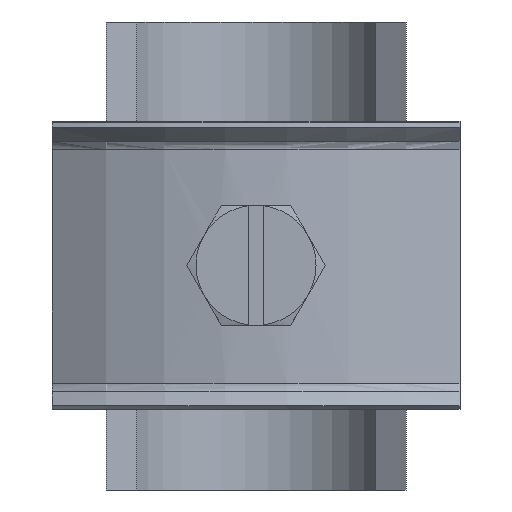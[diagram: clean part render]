
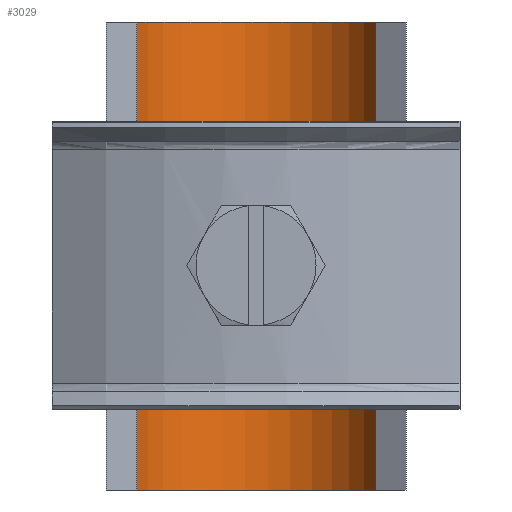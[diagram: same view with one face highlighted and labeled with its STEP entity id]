
A CAD part, front view. The second image highlights one B-rep face of the part: STEP entity #3029.
In plain terms, the highlighted cylindrical face has radius 11 mm (diameter 22 mm), a partial arc.
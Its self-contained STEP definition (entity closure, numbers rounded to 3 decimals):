
#61 = VECTOR ( 'NONE', #3961, 1000. ) ;
#195 = VERTEX_POINT ( 'NONE', #488 ) ;
#303 = VECTOR ( 'NONE', #1400, 1000. ) ;
#488 = CARTESIAN_POINT ( 'NONE',  ( -9.951, -4.312, -19.5 ) ) ;
#703 = EDGE_LOOP ( 'NONE', ( #1278, #1999, #856, #2527 ) ) ;
#770 = EDGE_CURVE ( 'NONE', #930, #2773, #1994, .T. ) ;
#856 = ORIENTED_EDGE ( 'NONE', *, *, #2647, .T. ) ;
#930 = VERTEX_POINT ( 'NONE', #3901 ) ;
#1045 = CYLINDRICAL_SURFACE ( 'NONE', #1080, 11. ) ;
#1051 = CARTESIAN_POINT ( 'NONE',  ( 9.96, -4.331, 19.5 ) ) ;
#1053 = CARTESIAN_POINT ( 'NONE',  ( -9.951, -4.312, 19.5 ) ) ;
#1080 = AXIS2_PLACEMENT_3D ( 'NONE', #3756, #3486, #2554 ) ;
#1137 = DIRECTION ( 'NONE',  ( 1., 0., 0. ) ) ;
#1278 = ORIENTED_EDGE ( 'NONE', *, *, #770, .F. ) ;
#1337 = FACE_OUTER_BOUND ( 'NONE', #703, .T. ) ;
#1392 = CIRCLE ( 'NONE', #1902, 11. ) ;
#1400 = DIRECTION ( 'NONE',  ( 0., 0., -1. ) ) ;
#1716 = CARTESIAN_POINT ( 'NONE',  ( 0., -9., 19.5 ) ) ;
#1760 = DIRECTION ( 'NONE',  ( 0., 0., 1. ) ) ;
#1902 = AXIS2_PLACEMENT_3D ( 'NONE', #3513, #3179, #3840 ) ;
#1904 = AXIS2_PLACEMENT_3D ( 'NONE', #1716, #1760, #1137 ) ;
#1994 = LINE ( 'NONE', #1051, #303 ) ;
#1999 = ORIENTED_EDGE ( 'NONE', *, *, #2049, .T. ) ;
#2049 = EDGE_CURVE ( 'NONE', #930, #2125, #3366, .T. ) ;
#2117 = CARTESIAN_POINT ( 'NONE',  ( -9.951, -4.312, 19.5 ) ) ;
#2125 = VERTEX_POINT ( 'NONE', #1053 ) ;
#2527 = ORIENTED_EDGE ( 'NONE', *, *, #3831, .F. ) ;
#2554 = DIRECTION ( 'NONE',  ( -1., 0., 0. ) ) ;
#2647 = EDGE_CURVE ( 'NONE', #2125, #195, #3613, .T. ) ;
#2773 = VERTEX_POINT ( 'NONE', #2963 ) ;
#2963 = CARTESIAN_POINT ( 'NONE',  ( 9.96, -4.331, -19.5 ) ) ;
#3029 = ADVANCED_FACE ( 'NONE', ( #1337 ), #1045, .F. ) ;
#3179 = DIRECTION ( 'NONE',  ( 0., 0., 1. ) ) ;
#3366 = CIRCLE ( 'NONE', #1904, 11. ) ;
#3486 = DIRECTION ( 'NONE',  ( 0., 0., -1. ) ) ;
#3513 = CARTESIAN_POINT ( 'NONE',  ( 0., -9., -19.5 ) ) ;
#3613 = LINE ( 'NONE', #2117, #61 ) ;
#3756 = CARTESIAN_POINT ( 'NONE',  ( 0., -9., 19.5 ) ) ;
#3831 = EDGE_CURVE ( 'NONE', #2773, #195, #1392, .T. ) ;
#3840 = DIRECTION ( 'NONE',  ( 1., 0., 0. ) ) ;
#3901 = CARTESIAN_POINT ( 'NONE',  ( 9.96, -4.331, 19.5 ) ) ;
#3961 = DIRECTION ( 'NONE',  ( 0., 0., -1. ) ) ;
